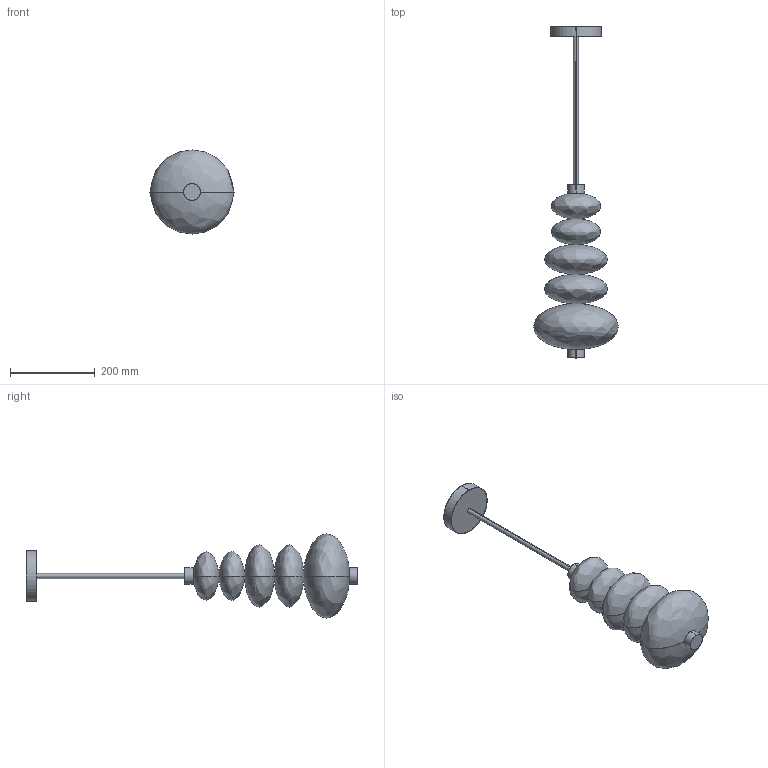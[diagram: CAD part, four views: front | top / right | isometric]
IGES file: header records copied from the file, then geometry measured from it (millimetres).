
Start section: SolidWorks IGES file using analytic representation for surfaces
Global section: file name: F:\燠隴矨\3D\2026-1\Stack Candy Pendant Light-A.IGS,15; native system: HSolidWorks 2022; preprocessor: SolidWorks 2022; author: MyPC; date: 260126.092735; units: millimetre
Bounding box: 199.2 x 784.68 x 199.32 mm (x, y, z)
Surface area: 306201.3 mm2 (no closed solid volume)
Topology: 0 solids, 0 shells, 29 faces, 656 edges, 636 vertices
Faces by surface type: bspline 19, revolution 10
